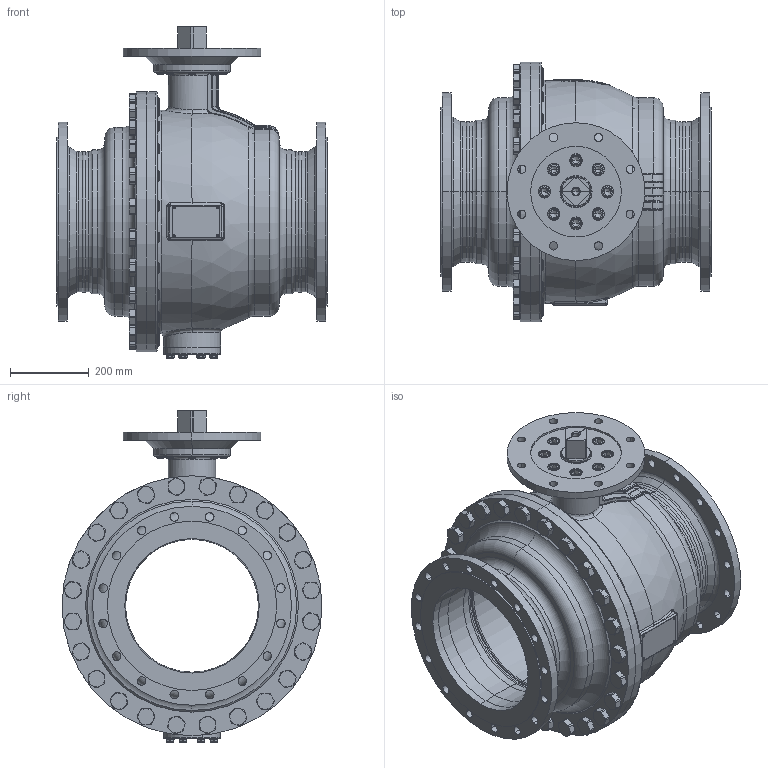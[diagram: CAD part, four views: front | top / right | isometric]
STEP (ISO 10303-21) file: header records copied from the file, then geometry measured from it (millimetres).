
FILE_DESCRIPTION((''),'2;1');
FILE_NAME('KHI-F_350_PN010-F30-4_SW0001','2026-02-05T15:49:58',('fischerkl'),('KLINGER'),'CREO PARAMETRIC BY PTC INC, 2023014','CREO PARAMETRIC BY PTC INC, 2023014','');
FILE_SCHEMA(('CONFIG_CONTROL_DESIGN'));
Products named in the file (1): KHI-F_350_PN010-F30-4_SW0001
Bounding box: 686 x 660 x 842.8 mm (x, y, z)
Volume: 41802372.6 mm3; surface area: 5840087.8 mm2
Topology: 1 solids, 4 shells, 3389 faces, 8552 edges, 5337 vertices
Faces by surface type: plane 1732, cylinder 789, cone 448, torus 291, bspline 99, sphere 30
Entity records: 143019 total; most frequent: CARTESIAN_POINT 62241, ORIENTED_EDGE 17052, DIRECTION 16733, EDGE_CURVE 8526, AXIS2_PLACEMENT_3D 6378, VERTEX_POINT 5337, VECTOR 3977, LINE 3977
